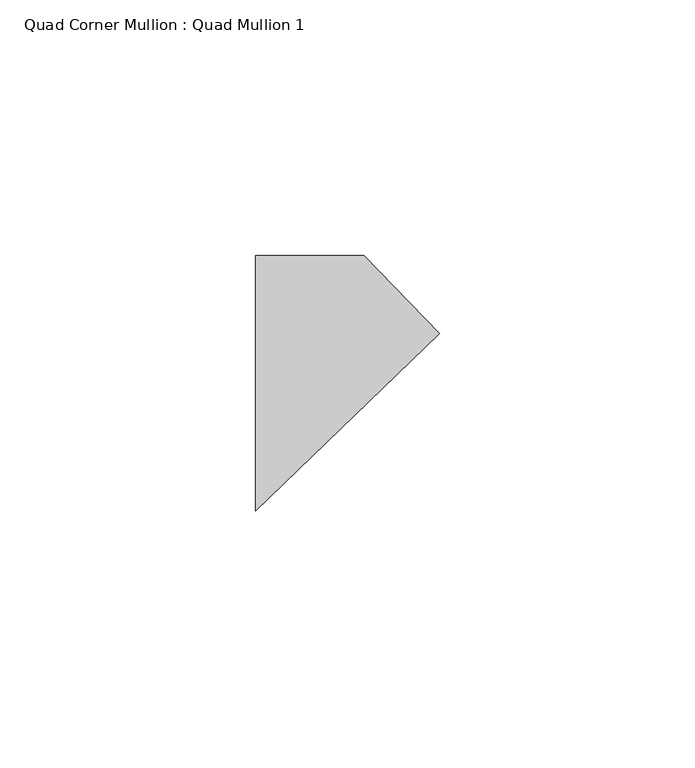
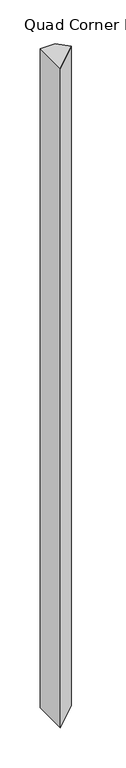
"""IFC4 building model written with IfcOpenShell, lengths in millimetres: member geometry, Quad Corner Mullion : Quad Mullion 1."""

from ifc_helpers import new_model, si_unit, frame, origin, place, context, project, spatial, polyline, outline, extrude, source, transform, mapped, element, save


def quad_corner_mullion_quad_mullion_1_7380ade1(model_context):
    return source(origin(), model_context, "Body", "SweptSolid", [
        extrude(outline(polyline([(25.3551196, 9.7329185), (-10.6118704, -25.0), (-10.6118704, 25.0), (10.6118704, 25.0), (25.3551196, 9.7329185)])), frame((0.0, 0.0, -1000.0), z_axis=(0.0, 0.0, 1.0), x_axis=(1.0, 0.0, 0.0)), (0.0, 0.0, 1.0), 1000.0),
    ])


if __name__ == "__main__":
    model = new_model("IFC4")
    model_context = context("Model", 3, world=origin())
    ifc_project = project(units=[si_unit("LENGTHUNIT", "METRE", prefix="MILLI")], contexts=[model_context])
    site = spatial("IfcSite", under=ifc_project)
    building = spatial("IfcBuilding", under=site)
    placement = place(None, origin())
    quad_corner_mullion_quad_mullion_1_shape = quad_corner_mullion_quad_mullion_1_7380ade1(model_context)
    element("IfcMember", 1, ObjectType="Quad Corner Mullion : Quad Mullion 1", at=placement, inside=building, context=model_context, shape_type="MappedRepresentation", body=[
        mapped(quad_corner_mullion_quad_mullion_1_shape, transform((0.0, 0.0, 0.0), x_axis=(1.0, 0.0, 0.0), y_axis=(0.0, 1.0, 0.0), z_axis=(0.0, 0.0, 1.0))),
    ])
    save(model, "model.ifc")
